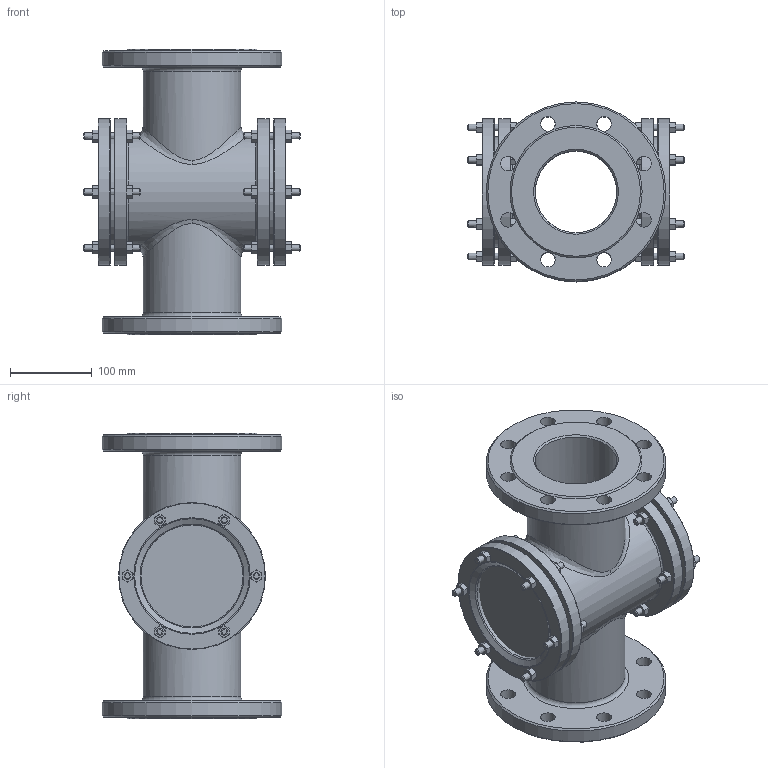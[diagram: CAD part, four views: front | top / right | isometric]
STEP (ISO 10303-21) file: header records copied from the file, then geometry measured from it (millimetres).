
FILE_DESCRIPTION(/* description */ (''),/* implementation_level */ '2;1');
FILE_NAME(/* name */ 'DN100_3D_STEP.stp',/* time_stamp */ '2024-04-25T16:29:48+03:00',/* author */ ('igorr'),/* organization */ (''),/* preprocessor_version */ 'ST-DEVELOPER v19.2',/* originating_system */ 'Autodesk Inventor 2023',/* authorisation */ '');
FILE_SCHEMA (('AUTOMOTIVE_DESIGN { 1 0 10303 214 3 1 1 }'));
Length unit declared in the file: millimetre
Products named in the file (4): Сборка; Деталь; Стекло; ANSI B18.2.4.2M - M8x1,25
Assembly tree (27 placements, depth 2):
  Сборка
    Деталь
    Стекло  x2
    ANSI B18.2.4.2M - M8x1,25  x24
Bounding box: 265.5 x 220 x 350 mm (x, y, z)
Volume: 3314566.8 mm3; surface area: 628007.9 mm2
Topology: 27 solids, 27 shells, 787 faces, 1781 edges, 1075 vertices
Faces by surface type: cone 370, plane 271, cylinder 99, bspline 31, torus 16
Full cylindrical faces by diameter (mm): 6.647 x24, 8 x36, 18 x16, 100 x2, 120 x2, 125 x1, 130 x2, 135 x2, 140 x1, 180 x4, 220 x2
Entity records: 10043 total; most frequent: CARTESIAN_POINT 3297, DIRECTION 1380, ORIENTED_EDGE 1256, EDGE_CURVE 628, AXIS2_PLACEMENT_3D 590, VERTEX_POINT 406, EDGE_LOOP 346, CIRCLE 326
